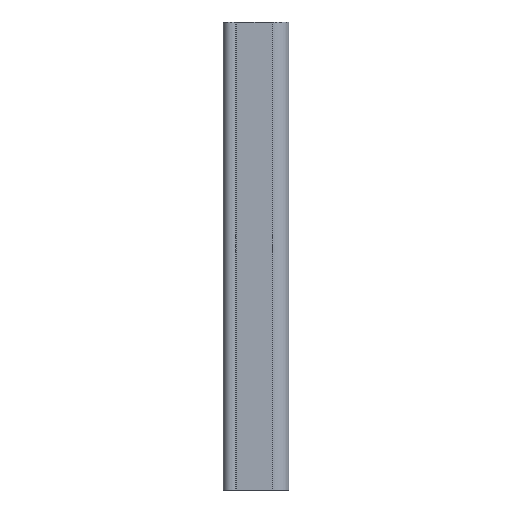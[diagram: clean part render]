
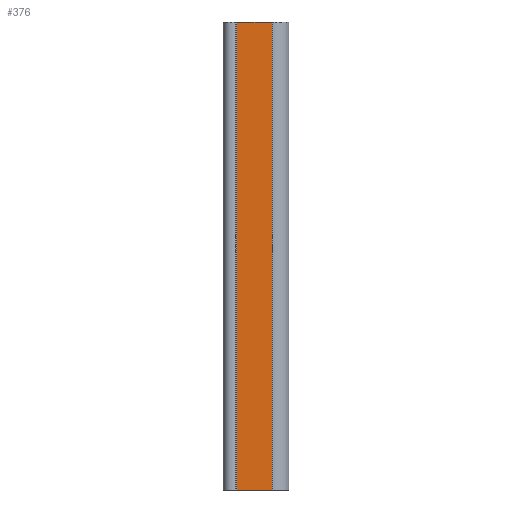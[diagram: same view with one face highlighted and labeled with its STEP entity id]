
A CAD part, front view. The second image highlights one B-rep face of the part: STEP entity #376.
In plain terms, the highlighted planar face has unit normal (0, -1, 0).
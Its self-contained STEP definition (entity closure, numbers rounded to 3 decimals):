
#125 = ORIENTED_EDGE ( 'NONE', *, *, #264, .T. ) ;
#130 = CARTESIAN_POINT ( 'NONE',  ( 44.252, -6., 250. ) ) ;
#147 = VECTOR ( 'NONE', #1196, 1000. ) ;
#150 = CARTESIAN_POINT ( 'NONE',  ( 44.252, -6., -250. ) ) ;
#182 = AXIS2_PLACEMENT_3D ( 'NONE', #803, #1356, #1183 ) ;
#250 = PLANE ( 'NONE',  #182 ) ;
#264 = EDGE_CURVE ( 'NONE', #1413, #1343, #903, .T. ) ;
#352 = EDGE_LOOP ( 'NONE', ( #427, #1332, #125, #774 ) ) ;
#376 = ADVANCED_FACE ( 'NONE', ( #1497 ), #250, .T. ) ;
#427 = ORIENTED_EDGE ( 'NONE', *, *, #1216, .F. ) ;
#433 = VERTEX_POINT ( 'NONE', #681 ) ;
#436 = VERTEX_POINT ( 'NONE', #531 ) ;
#492 = CARTESIAN_POINT ( 'NONE',  ( 44.252, -6., -250. ) ) ;
#531 = CARTESIAN_POINT ( 'NONE',  ( 44.252, -6., 250. ) ) ;
#681 = CARTESIAN_POINT ( 'NONE',  ( 6.325, -6., 250. ) ) ;
#690 = DIRECTION ( 'NONE',  ( 1., 0., 0. ) ) ;
#701 = EDGE_CURVE ( 'NONE', #1413, #433, #1393, .T. ) ;
#774 = ORIENTED_EDGE ( 'NONE', *, *, #1547, .T. ) ;
#803 = CARTESIAN_POINT ( 'NONE',  ( 44.252, -6., -250. ) ) ;
#903 = LINE ( 'NONE', #492, #147 ) ;
#939 = VECTOR ( 'NONE', #690, 1000. ) ;
#1092 = DIRECTION ( 'NONE',  ( 0., 0., 1. ) ) ;
#1183 = DIRECTION ( 'NONE',  ( 1., 0., 0. ) ) ;
#1196 = DIRECTION ( 'NONE',  ( 1., 0., 0. ) ) ;
#1216 = EDGE_CURVE ( 'NONE', #433, #436, #1769, .T. ) ;
#1298 = CARTESIAN_POINT ( 'NONE',  ( 6.325, -6., -250. ) ) ;
#1332 = ORIENTED_EDGE ( 'NONE', *, *, #701, .F. ) ;
#1340 = VECTOR ( 'NONE', #1092, 1000. ) ;
#1343 = VERTEX_POINT ( 'NONE', #150 ) ;
#1356 = DIRECTION ( 'NONE',  ( 0., -1., 0. ) ) ;
#1392 = CARTESIAN_POINT ( 'NONE',  ( 44.252, -6., -250. ) ) ;
#1393 = LINE ( 'NONE', #1552, #1433 ) ;
#1413 = VERTEX_POINT ( 'NONE', #1298 ) ;
#1433 = VECTOR ( 'NONE', #1512, 1000. ) ;
#1497 = FACE_OUTER_BOUND ( 'NONE', #352, .T. ) ;
#1512 = DIRECTION ( 'NONE',  ( 0., 0., 1. ) ) ;
#1529 = LINE ( 'NONE', #1392, #1340 ) ;
#1547 = EDGE_CURVE ( 'NONE', #1343, #436, #1529, .T. ) ;
#1552 = CARTESIAN_POINT ( 'NONE',  ( 6.325, -6., -250. ) ) ;
#1769 = LINE ( 'NONE', #130, #939 ) ;
